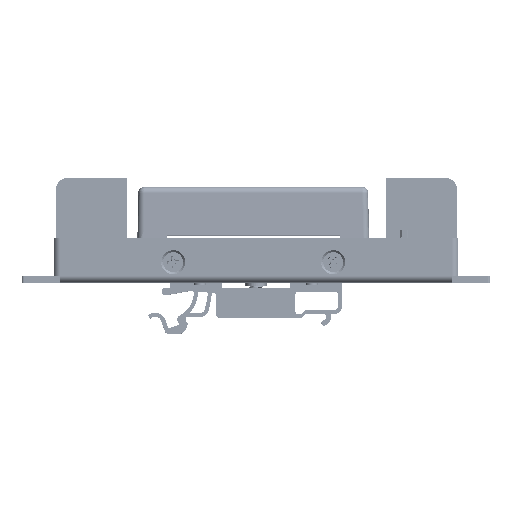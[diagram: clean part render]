
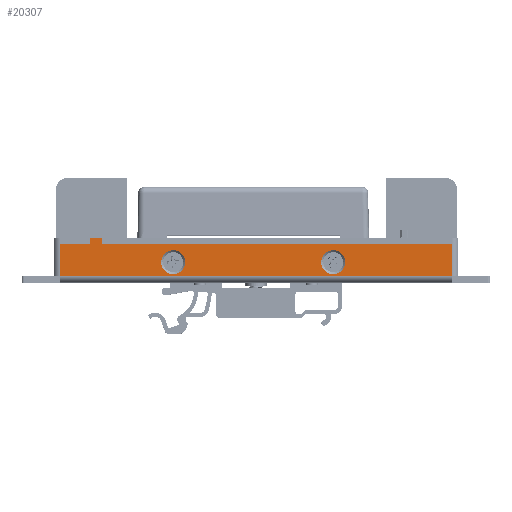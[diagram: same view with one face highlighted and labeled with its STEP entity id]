
A CAD part, top view. The second image highlights one B-rep face of the part: STEP entity #20307.
In plain terms, the highlighted planar face has unit normal (0, 0, 1).
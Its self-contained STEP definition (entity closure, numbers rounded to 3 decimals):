
#17479 = VERTEX_POINT ( 'NONE', #30317 ) ;
#17502 = VERTEX_POINT ( 'NONE', #30338 ) ;
#17505 = EDGE_CURVE ( 'NONE', #17502, #17507, #30333, .T. ) ;
#17507 = VERTEX_POINT ( 'NONE', #30383 ) ;
#17964 = EDGE_CURVE ( 'NONE', #17479, #17965, #31446, .T. ) ;
#17965 = VERTEX_POINT ( 'NONE', #31441 ) ;
#19347 = EDGE_CURVE ( 'NONE', #19348, #19429, #36167, .T. ) ;
#19348 = VERTEX_POINT ( 'NONE', #36159 ) ;
#19352 = VERTEX_POINT ( 'NONE', #36155 ) ;
#19371 = VERTEX_POINT ( 'NONE', #36304 ) ;
#19423 = EDGE_CURVE ( 'NONE', #19352, #19371, #36489, .T. ) ;
#19429 = VERTEX_POINT ( 'NONE', #36589 ) ;
#20079 = EDGE_CURVE ( 'NONE', #20080, #20081, #41065, .T. ) ;
#20080 = VERTEX_POINT ( 'NONE', #41058 ) ;
#20081 = VERTEX_POINT ( 'NONE', #41055 ) ;
#20231 = EDGE_LOOP ( 'NONE', ( #20287, #20289 ) ) ;
#20242 = VERTEX_POINT ( 'NONE', #41856 ) ;
#20244 = EDGE_CURVE ( 'NONE', #20242, #20245, #41851, .T. ) ;
#20245 = VERTEX_POINT ( 'NONE', #41843 ) ;
#20274 = ORIENTED_EDGE ( 'NONE', *, *, #19423, .T. ) ;
#20275 = ORIENTED_EDGE ( 'NONE', *, *, #20276, .T. ) ;
#20276 = EDGE_CURVE ( 'NONE', #19371, #20080, #42053, .T. ) ;
#20278 = ORIENTED_EDGE ( 'NONE', *, *, #20079, .T. ) ;
#20279 = ORIENTED_EDGE ( 'NONE', *, *, #20280, .F. ) ;
#20280 = EDGE_CURVE ( 'NONE', #20245, #20081, #42028, .T. ) ;
#20281 = ORIENTED_EDGE ( 'NONE', *, *, #20244, .F. ) ;
#20282 = ORIENTED_EDGE ( 'NONE', *, *, #20283, .T. ) ;
#20283 = EDGE_CURVE ( 'NONE', #20242, #19348, #42021, .T. ) ;
#20287 = ORIENTED_EDGE ( 'NONE', *, *, #20288, .F. ) ;
#20288 = EDGE_CURVE ( 'NONE', #17965, #17479, #42128, .T. ) ;
#20289 = ORIENTED_EDGE ( 'NONE', *, *, #17964, .F. ) ;
#20290 = EDGE_LOOP ( 'NONE', ( #20291, #20292, #20295, #20298, #20274, #20275, #20278, #20279, #20281, #20282 ) ) ;
#20291 = ORIENTED_EDGE ( 'NONE', *, *, #19347, .T. ) ;
#20292 = ORIENTED_EDGE ( 'NONE', *, *, #20293, .F. ) ;
#20293 = EDGE_CURVE ( 'NONE', #20294, #19429, #42114, .T. ) ;
#20294 = VERTEX_POINT ( 'NONE', #42107 ) ;
#20295 = ORIENTED_EDGE ( 'NONE', *, *, #20296, .F. ) ;
#20296 = EDGE_CURVE ( 'NONE', #20297, #20294, #42105, .T. ) ;
#20297 = VERTEX_POINT ( 'NONE', #42101 ) ;
#20298 = ORIENTED_EDGE ( 'NONE', *, *, #20299, .T. ) ;
#20299 = EDGE_CURVE ( 'NONE', #20297, #19352, #42099, .T. ) ;
#20307 = ADVANCED_FACE ( 'NONE', ( #42182, #42181, #42180 ), #42179, .F. ) ;
#20308 = EDGE_LOOP ( 'NONE', ( #20309, #20312 ) ) ;
#20309 = ORIENTED_EDGE ( 'NONE', *, *, #20310, .F. ) ;
#20310 = EDGE_CURVE ( 'NONE', #17507, #17502, #42171, .T. ) ;
#20312 = ORIENTED_EDGE ( 'NONE', *, *, #17505, .F. ) ;
#30317 = CARTESIAN_POINT ( 'NONE',  ( 16.3, 5.1, 32.3 ) ) ;
#30330 = DIRECTION ( 'NONE',  ( 0., 0., 1. ) ) ;
#30331 = CARTESIAN_POINT ( 'NONE',  ( -20.7, 5.1, 32.3 ) ) ;
#30332 = AXIS2_PLACEMENT_3D ( 'NONE', #30331, #30330, #30390 ) ;
#30333 = CIRCLE ( 'NONE', #30332, 3. ) ;
#30338 = CARTESIAN_POINT ( 'NONE',  ( -23.7, 5.1, 32.3 ) ) ;
#30383 = CARTESIAN_POINT ( 'NONE',  ( -17.7, 5.1, 32.3 ) ) ;
#30390 = DIRECTION ( 'NONE',  ( 1., 0., 0. ) ) ;
#31441 = CARTESIAN_POINT ( 'NONE',  ( 22.3, 5.1, 32.3 ) ) ;
#31442 = DIRECTION ( 'NONE',  ( 1., 0., 0. ) ) ;
#31443 = DIRECTION ( 'NONE',  ( 0., 0., 1. ) ) ;
#31444 = CARTESIAN_POINT ( 'NONE',  ( 19.3, 5.1, 32.3 ) ) ;
#31445 = AXIS2_PLACEMENT_3D ( 'NONE', #31444, #31443, #31442 ) ;
#31446 = CIRCLE ( 'NONE', #31445, 3. ) ;
#36155 = CARTESIAN_POINT ( 'NONE',  ( -41.5, 9.6, 32.3 ) ) ;
#36159 = CARTESIAN_POINT ( 'NONE',  ( 49., 9.6, 32.3 ) ) ;
#36161 = DIRECTION ( 'NONE',  ( -1., 0., 0. ) ) ;
#36162 = VECTOR ( 'NONE', #36161, 1000. ) ;
#36165 = CARTESIAN_POINT ( 'NONE',  ( 49., 9.6, 32.3 ) ) ;
#36167 = LINE ( 'NONE', #36165, #36162 ) ;
#36304 = CARTESIAN_POINT ( 'NONE',  ( -49., 9.6, 32.3 ) ) ;
#36489 = LINE ( 'NONE', #36502, #36619 ) ;
#36502 = CARTESIAN_POINT ( 'NONE',  ( 49., 9.6, 32.3 ) ) ;
#36589 = CARTESIAN_POINT ( 'NONE',  ( -38.5, 9.6, 32.3 ) ) ;
#36617 = DIRECTION ( 'NONE',  ( -1., 0., 0. ) ) ;
#36619 = VECTOR ( 'NONE', #36617, 1000. ) ;
#41055 = CARTESIAN_POINT ( 'NONE',  ( -49., 1.6, 32.3 ) ) ;
#41058 = CARTESIAN_POINT ( 'NONE',  ( -49., 1.7, 32.3 ) ) ;
#41060 = DIRECTION ( 'NONE',  ( 0., -1., 0. ) ) ;
#41062 = VECTOR ( 'NONE', #41060, 1000. ) ;
#41064 = CARTESIAN_POINT ( 'NONE',  ( -49., 1.6, 32.3 ) ) ;
#41065 = LINE ( 'NONE', #41064, #41062 ) ;
#41843 = CARTESIAN_POINT ( 'NONE',  ( 49., 1.6, 32.3 ) ) ;
#41846 = DIRECTION ( 'NONE',  ( 0., -1., 0. ) ) ;
#41847 = VECTOR ( 'NONE', #41846, 1000. ) ;
#41849 = CARTESIAN_POINT ( 'NONE',  ( 49., 1.6, 32.3 ) ) ;
#41851 = LINE ( 'NONE', #41849, #41847 ) ;
#41856 = CARTESIAN_POINT ( 'NONE',  ( 49., 1.7, 32.3 ) ) ;
#42016 = DIRECTION ( 'NONE',  ( 0., 1., 0. ) ) ;
#42017 = VECTOR ( 'NONE', #42016, 1000. ) ;
#42018 = CARTESIAN_POINT ( 'NONE',  ( 49., 9.6, 32.3 ) ) ;
#42021 = LINE ( 'NONE', #42018, #42017 ) ;
#42024 = DIRECTION ( 'NONE',  ( -1., 0., 0. ) ) ;
#42025 = VECTOR ( 'NONE', #42024, 1000. ) ;
#42026 = CARTESIAN_POINT ( 'NONE',  ( 49., 1.6, 32.3 ) ) ;
#42028 = LINE ( 'NONE', #42026, #42025 ) ;
#42040 = DIRECTION ( 'NONE',  ( 0., -1., 0. ) ) ;
#42042 = VECTOR ( 'NONE', #42040, 1000. ) ;
#42044 = CARTESIAN_POINT ( 'NONE',  ( -49., 1.7, 32.3 ) ) ;
#42053 = LINE ( 'NONE', #42044, #42042 ) ;
#42094 = DIRECTION ( 'NONE',  ( 0., -1., 0. ) ) ;
#42096 = VECTOR ( 'NONE', #42094, 1000. ) ;
#42098 = CARTESIAN_POINT ( 'NONE',  ( -41.5, 11.2, 32.3 ) ) ;
#42099 = LINE ( 'NONE', #42098, #42096 ) ;
#42101 = CARTESIAN_POINT ( 'NONE',  ( -41.5, 11.2, 32.3 ) ) ;
#42102 = DIRECTION ( 'NONE',  ( 1., 0., 0. ) ) ;
#42103 = VECTOR ( 'NONE', #42102, 1000. ) ;
#42104 = CARTESIAN_POINT ( 'NONE',  ( -41.5, 11.2, 32.3 ) ) ;
#42105 = LINE ( 'NONE', #42104, #42103 ) ;
#42107 = CARTESIAN_POINT ( 'NONE',  ( -38.5, 11.2, 32.3 ) ) ;
#42110 = DIRECTION ( 'NONE',  ( 0., -1., 0. ) ) ;
#42112 = VECTOR ( 'NONE', #42110, 1000. ) ;
#42113 = CARTESIAN_POINT ( 'NONE',  ( -38.5, 11.2, 32.3 ) ) ;
#42114 = LINE ( 'NONE', #42113, #42112 ) ;
#42115 = DIRECTION ( 'NONE',  ( 1., 0., 0. ) ) ;
#42117 = DIRECTION ( 'NONE',  ( 0., 0., 1. ) ) ;
#42119 = CARTESIAN_POINT ( 'NONE',  ( 19.3, 5.1, 32.3 ) ) ;
#42120 = AXIS2_PLACEMENT_3D ( 'NONE', #42119, #42117, #42115 ) ;
#42128 = CIRCLE ( 'NONE', #42120, 3. ) ;
#42165 = DIRECTION ( 'NONE',  ( 1., 0., 0. ) ) ;
#42167 = DIRECTION ( 'NONE',  ( 0., 0., 1. ) ) ;
#42169 = AXIS2_PLACEMENT_3D ( 'NONE', #42177, #42167, #42165 ) ;
#42171 = CIRCLE ( 'NONE', #42169, 3. ) ;
#42173 = DIRECTION ( 'NONE',  ( -1., 0., 0. ) ) ;
#42175 = DIRECTION ( 'NONE',  ( 0., 0., -1. ) ) ;
#42176 = AXIS2_PLACEMENT_3D ( 'NONE', #42178, #42175, #42173 ) ;
#42177 = CARTESIAN_POINT ( 'NONE',  ( -20.7, 5.1, 32.3 ) ) ;
#42178 = CARTESIAN_POINT ( 'NONE',  ( 49., 1.6, 32.3 ) ) ;
#42179 = PLANE ( 'NONE',  #42176 ) ;
#42180 = FACE_OUTER_BOUND ( 'NONE', #20290, .T. ) ;
#42181 = FACE_BOUND ( 'NONE', #20231, .T. ) ;
#42182 = FACE_BOUND ( 'NONE', #20308, .T. ) ;
